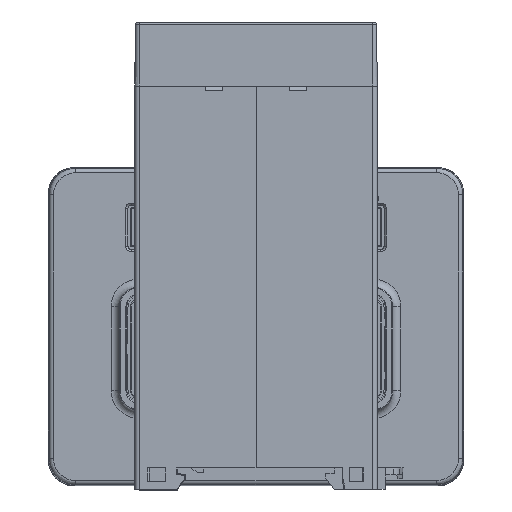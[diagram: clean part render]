
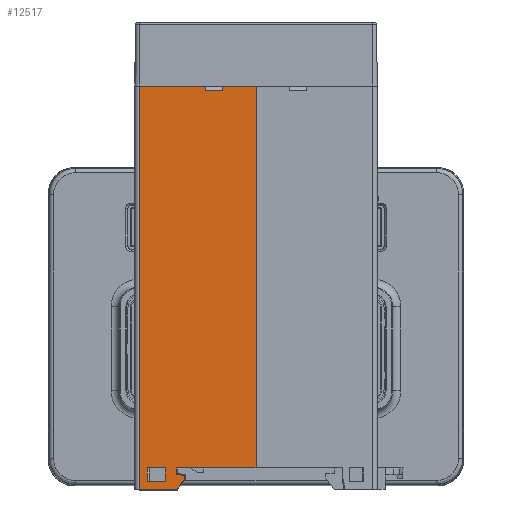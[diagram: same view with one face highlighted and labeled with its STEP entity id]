
A CAD part, left-side view. The second image highlights one B-rep face of the part: STEP entity #12517.
In plain terms, the highlighted planar face has unit normal (-1, 0, 0).
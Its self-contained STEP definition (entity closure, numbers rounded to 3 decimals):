
#9140=FACE_BOUND('',#20147,.T.);
#9141=FACE_BOUND('',#20148,.T.);
#12517=ADVANCED_FACE('',(#9140,#9141),#14948,.T.);
#14948=PLANE('',#62141);
#20147=EDGE_LOOP('',(#28682,#28683,#28684,#28685));
#20148=EDGE_LOOP('',(#28686,#28687,#28688,#28689,#28690,#28691,#28692,#28693,
#28694,#28695,#28696,#28697,#28698));
#28682=ORIENTED_EDGE('',*,*,#45132,.F.);
#28683=ORIENTED_EDGE('',*,*,#45133,.T.);
#28684=ORIENTED_EDGE('',*,*,#45134,.T.);
#28685=ORIENTED_EDGE('',*,*,#45135,.F.);
#28686=ORIENTED_EDGE('',*,*,#45136,.F.);
#28687=ORIENTED_EDGE('',*,*,#45137,.T.);
#28688=ORIENTED_EDGE('',*,*,#44844,.F.);
#28689=ORIENTED_EDGE('',*,*,#45138,.T.);
#28690=ORIENTED_EDGE('',*,*,#45139,.T.);
#28691=ORIENTED_EDGE('',*,*,#45140,.T.);
#28692=ORIENTED_EDGE('',*,*,#45141,.T.);
#28693=ORIENTED_EDGE('',*,*,#45142,.T.);
#28694=ORIENTED_EDGE('',*,*,#45143,.T.);
#28695=ORIENTED_EDGE('',*,*,#45144,.T.);
#28696=ORIENTED_EDGE('',*,*,#45145,.T.);
#28697=ORIENTED_EDGE('',*,*,#45146,.F.);
#28698=ORIENTED_EDGE('',*,*,#45147,.F.);
#38882=VERTEX_POINT('',#86326);
#38883=VERTEX_POINT('',#86328);
#39092=VERTEX_POINT('',#86970);
#39093=VERTEX_POINT('',#86971);
#39094=VERTEX_POINT('',#86973);
#39095=VERTEX_POINT('',#86975);
#39096=VERTEX_POINT('',#86978);
#39097=VERTEX_POINT('',#86979);
#39098=VERTEX_POINT('',#86982);
#39099=VERTEX_POINT('',#86984);
#39100=VERTEX_POINT('',#86986);
#39101=VERTEX_POINT('',#86988);
#39102=VERTEX_POINT('',#86990);
#39103=VERTEX_POINT('',#86992);
#39104=VERTEX_POINT('',#86994);
#39105=VERTEX_POINT('',#86996);
#39106=VERTEX_POINT('',#86998);
#44844=EDGE_CURVE('',#38882,#38883,#51506,.T.);
#45132=EDGE_CURVE('',#39092,#39093,#51749,.T.);
#45133=EDGE_CURVE('',#39092,#39094,#51750,.T.);
#45134=EDGE_CURVE('',#39094,#39095,#51751,.T.);
#45135=EDGE_CURVE('',#39093,#39095,#51752,.T.);
#45136=EDGE_CURVE('',#39096,#39097,#51753,.T.);
#45137=EDGE_CURVE('',#39096,#38883,#51754,.T.);
#45138=EDGE_CURVE('',#38882,#39098,#51755,.T.);
#45139=EDGE_CURVE('',#39098,#39099,#51756,.T.);
#45140=EDGE_CURVE('',#39099,#39100,#51757,.T.);
#45141=EDGE_CURVE('',#39100,#39101,#51758,.T.);
#45142=EDGE_CURVE('',#39101,#39102,#51759,.T.);
#45143=EDGE_CURVE('',#39102,#39103,#51760,.T.);
#45144=EDGE_CURVE('',#39103,#39104,#51761,.T.);
#45145=EDGE_CURVE('',#39104,#39105,#51762,.T.);
#45146=EDGE_CURVE('',#39106,#39105,#51763,.T.);
#45147=EDGE_CURVE('',#39097,#39106,#51764,.T.);
#51506=LINE('',#86327,#57111);
#51749=LINE('',#86969,#57354);
#51750=LINE('',#86972,#57355);
#51751=LINE('',#86974,#57356);
#51752=LINE('',#86976,#57357);
#51753=LINE('',#86977,#57358);
#51754=LINE('',#86980,#57359);
#51755=LINE('',#86981,#57360);
#51756=LINE('',#86983,#57361);
#51757=LINE('',#86985,#57362);
#51758=LINE('',#86987,#57363);
#51759=LINE('',#86989,#57364);
#51760=LINE('',#86991,#57365);
#51761=LINE('',#86993,#57366);
#51762=LINE('',#86995,#57367);
#51763=LINE('',#86997,#57368);
#51764=LINE('',#86999,#57369);
#57111=VECTOR('',#70282,1.);
#57354=VECTOR('',#70761,1.);
#57355=VECTOR('',#70762,1.);
#57356=VECTOR('',#70763,1.);
#57357=VECTOR('',#70764,1.);
#57358=VECTOR('',#70765,1.);
#57359=VECTOR('',#70766,1.);
#57360=VECTOR('',#70767,1.);
#57361=VECTOR('',#70768,1.);
#57362=VECTOR('',#70769,1.);
#57363=VECTOR('',#70770,1.);
#57364=VECTOR('',#70771,1.);
#57365=VECTOR('',#70772,1.);
#57366=VECTOR('',#70773,1.);
#57367=VECTOR('',#70774,1.);
#57368=VECTOR('',#70775,1.);
#57369=VECTOR('',#70776,1.);
#62141=AXIS2_PLACEMENT_3D('',#87000,#70777,#70778);
#70282=DIRECTION('',(0.,-1.,0.));
#70761=DIRECTION('',(0.,-1.,0.));
#70762=DIRECTION('',(0.,0.,1.));
#70763=DIRECTION('',(0.,-1.,0.));
#70764=DIRECTION('',(0.,0.,1.));
#70765=DIRECTION('',(0.,-1.,0.));
#70766=DIRECTION('',(0.,0.,1.));
#70767=DIRECTION('',(0.,0.,-1.));
#70768=DIRECTION('',(0.,-1.,0.));
#70769=DIRECTION('',(0.,-0.605,0.796));
#70770=DIRECTION('',(0.,0.,1.));
#70771=DIRECTION('',(0.,0.995,0.105));
#70772=DIRECTION('',(0.,0.,1.));
#70773=DIRECTION('',(0.,-1.,0.));
#70774=DIRECTION('',(0.,0.,1.));
#70775=DIRECTION('',(0.,-1.,0.));
#70776=DIRECTION('',(0.,0.,1.));
#70777=DIRECTION('',(-1.,0.,0.));
#70778=DIRECTION('',(0.,0.,1.));
#86326=CARTESIAN_POINT('',(0.001,53.343,-77.231));
#86327=CARTESIAN_POINT('',(0.001,54.343,-77.231));
#86328=CARTESIAN_POINT('',(0.001,38.343,-77.231));
#86969=CARTESIAN_POINT('',(0.001,50.943,-166.731));
#86970=CARTESIAN_POINT('',(0.001,51.443,-166.731));
#86971=CARTESIAN_POINT('',(0.001,47.343,-166.731));
#86972=CARTESIAN_POINT('',(0.001,51.443,-163.731));
#86973=CARTESIAN_POINT('',(0.001,51.443,-163.731));
#86974=CARTESIAN_POINT('',(0.001,47.343,-163.731));
#86975=CARTESIAN_POINT('',(0.001,47.343,-163.731));
#86976=CARTESIAN_POINT('',(0.001,47.343,-166.731));
#86977=CARTESIAN_POINT('',(0.001,38.343,-78.231));
#86978=CARTESIAN_POINT('',(0.001,38.343,-78.231));
#86979=CARTESIAN_POINT('',(0.001,34.343,-78.231));
#86980=CARTESIAN_POINT('',(0.001,38.343,-78.231));
#86981=CARTESIAN_POINT('',(0.001,53.343,-163.731));
#86982=CARTESIAN_POINT('',(0.001,53.343,-168.531));
#86983=CARTESIAN_POINT('',(0.001,54.343,-168.531));
#86984=CARTESIAN_POINT('',(0.001,44.742,-168.531));
#86985=CARTESIAN_POINT('',(0.001,45.945,-170.113));
#86986=CARTESIAN_POINT('',(0.001,42.943,-166.164));
#86987=CARTESIAN_POINT('',(0.001,42.943,-163.731));
#86988=CARTESIAN_POINT('',(0.001,42.943,-165.411));
#86989=CARTESIAN_POINT('',(0.001,54.393,-164.206));
#86990=CARTESIAN_POINT('',(0.001,44.843,-165.211));
#86991=CARTESIAN_POINT('',(0.001,44.843,-163.731));
#86992=CARTESIAN_POINT('',(0.001,44.843,-163.731));
#86993=CARTESIAN_POINT('',(0.001,54.343,-163.731));
#86994=CARTESIAN_POINT('',(0.001,26.843,-163.731));
#86995=CARTESIAN_POINT('',(0.001,26.843,-163.731));
#86996=CARTESIAN_POINT('',(0.001,26.843,-77.231));
#86997=CARTESIAN_POINT('',(0.001,54.343,-77.231));
#86998=CARTESIAN_POINT('',(0.001,34.343,-77.231));
#86999=CARTESIAN_POINT('',(0.001,34.343,-78.231));
#87000=CARTESIAN_POINT('',(0.001,54.343,-163.731));
